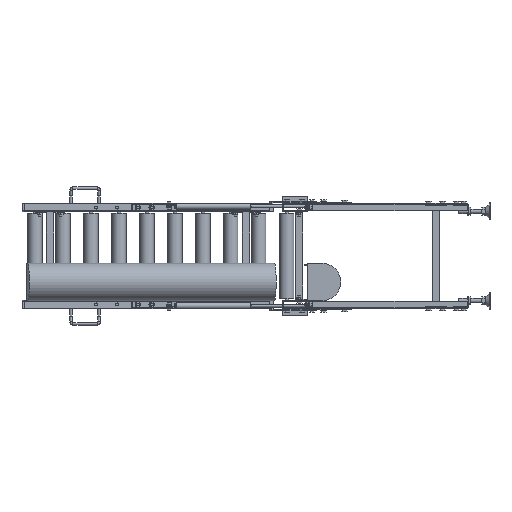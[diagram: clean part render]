
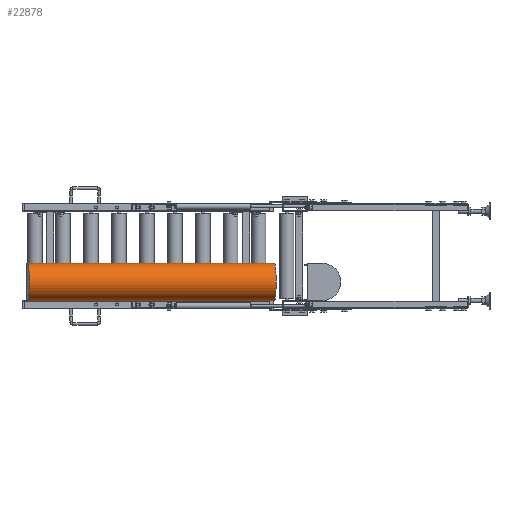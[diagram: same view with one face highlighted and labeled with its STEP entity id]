
A CAD part, left-side view. The second image highlights one B-rep face of the part: STEP entity #22878.
In plain terms, the highlighted cylindrical face has radius 66.89 mm (diameter 133.78 mm), a partial arc.
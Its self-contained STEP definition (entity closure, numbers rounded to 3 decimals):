
#1465 = DIRECTION ( 'NONE',  ( 0., 0., 1. ) ) ;
#1553 = EDGE_CURVE ( 'NONE', #5549, #22902, #56228, .T. ) ;
#1702 = CARTESIAN_POINT ( 'NONE',  ( -63.444, -158.438, -92.61 ) ) ;
#4086 = VECTOR ( 'NONE', #26311, 1000. ) ;
#4179 = CYLINDRICAL_SURFACE ( 'NONE', #28456, 66.89 ) ;
#5201 = ORIENTED_EDGE ( 'NONE', *, *, #56726, .T. ) ;
#5549 = VERTEX_POINT ( 'NONE', #21649 ) ;
#6710 = AXIS2_PLACEMENT_3D ( 'NONE', #64664, #47052, #24913 ) ;
#6753 = EDGE_CURVE ( 'NONE', #71883, #22902, #51291, .T. ) ;
#11975 = CARTESIAN_POINT ( 'NONE',  ( -78.917, 18.539, -159.5 ) ) ;
#15790 = FACE_OUTER_BOUND ( 'NONE', #48974, .T. ) ;
#21649 = CARTESIAN_POINT ( 'NONE',  ( -155.735, 897.187, -159.5 ) ) ;
#22878 = ADVANCED_FACE ( 'NONE', ( #15790 ), #4179, .T. ) ;
#22902 = VERTEX_POINT ( 'NONE', #70106 ) ;
#24913 = DIRECTION ( 'NONE',  ( 0., 0., -1. ) ) ;
#26311 = DIRECTION ( 'NONE',  ( -0.087, 0.996, 0. ) ) ;
#28456 = AXIS2_PLACEMENT_3D ( 'NONE', #1702, #59129, #1465 ) ;
#29902 = CIRCLE ( 'NONE', #6710, 66.89 ) ;
#33805 = DIRECTION ( 'NONE',  ( -0.087, 0.996, 0. ) ) ;
#37050 = DIRECTION ( 'NONE',  ( 0., 0., -1. ) ) ;
#39608 = ORIENTED_EDGE ( 'NONE', *, *, #52450, .F. ) ;
#39810 = LINE ( 'NONE', #66827, #46954 ) ;
#45341 = ORIENTED_EDGE ( 'NONE', *, *, #1553, .F. ) ;
#46954 = VECTOR ( 'NONE', #33805, 1000. ) ;
#47052 = DIRECTION ( 'NONE',  ( -0.087, 0.996, 0. ) ) ;
#48974 = EDGE_LOOP ( 'NONE', ( #39608, #5201, #52591, #45341 ) ) ;
#49842 = CARTESIAN_POINT ( 'NONE',  ( -78.917, 18.539, -25.72 ) ) ;
#51291 = LINE ( 'NONE', #61296, #4086 ) ;
#52450 = EDGE_CURVE ( 'NONE', #63452, #5549, #39810, .T. ) ;
#52591 = ORIENTED_EDGE ( 'NONE', *, *, #6753, .T. ) ;
#56228 = CIRCLE ( 'NONE', #65044, 66.89 ) ;
#56726 = EDGE_CURVE ( 'NONE', #63452, #71883, #29902, .T. ) ;
#59129 = DIRECTION ( 'NONE',  ( -0.087, 0.996, 0. ) ) ;
#61296 = CARTESIAN_POINT ( 'NONE',  ( -63.444, -158.438, -25.72 ) ) ;
#63452 = VERTEX_POINT ( 'NONE', #11975 ) ;
#64664 = CARTESIAN_POINT ( 'NONE',  ( -78.917, 18.539, -92.61 ) ) ;
#65044 = AXIS2_PLACEMENT_3D ( 'NONE', #65604, #71077, #37050 ) ;
#65604 = CARTESIAN_POINT ( 'NONE',  ( -155.735, 897.187, -92.61 ) ) ;
#66827 = CARTESIAN_POINT ( 'NONE',  ( -63.444, -158.438, -159.5 ) ) ;
#70106 = CARTESIAN_POINT ( 'NONE',  ( -155.735, 897.187, -25.72 ) ) ;
#71077 = DIRECTION ( 'NONE',  ( -0.087, 0.996, 0. ) ) ;
#71883 = VERTEX_POINT ( 'NONE', #49842 ) ;
